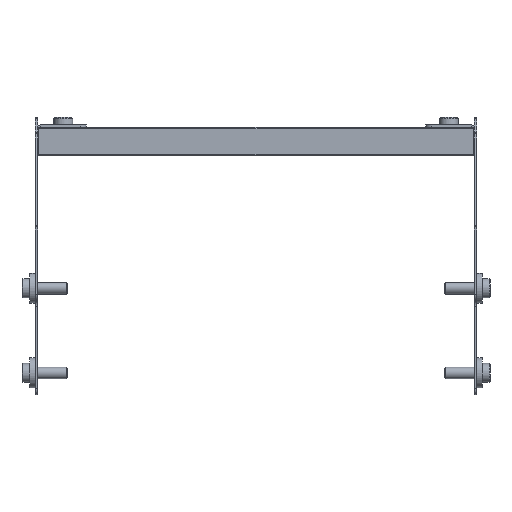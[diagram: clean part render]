
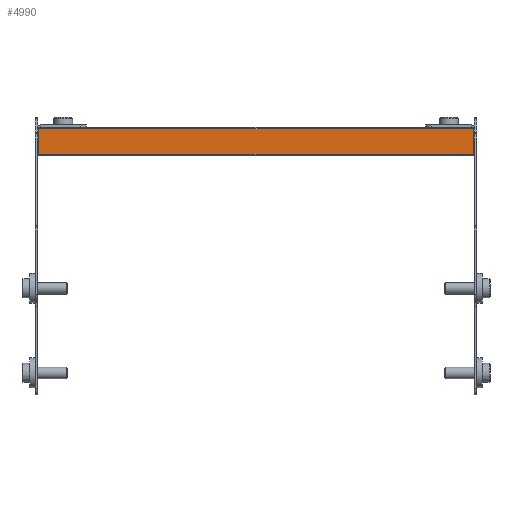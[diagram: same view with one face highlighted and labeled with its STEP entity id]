
A CAD part, front view. The second image highlights one B-rep face of the part: STEP entity #4990.
In plain terms, the highlighted planar face has unit normal (0, -1, 0) as drawn and (1, 0, 0) by its records, which use the part's own axes.
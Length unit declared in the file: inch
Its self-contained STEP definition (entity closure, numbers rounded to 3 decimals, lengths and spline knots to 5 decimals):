
#3389=DIRECTION('',(0.,-1.,0.));
#3390=VECTOR('',#3389,0.53055);
#3391=CARTESIAN_POINT('',(0.78127,0.26528,-4.5));
#3392=LINE('',#3391,#3390);
#4007=DIRECTION('',(0.,0.,-1.));
#4008=VECTOR('',#4007,9.);
#4009=CARTESIAN_POINT('',(0.78127,0.26528,4.5));
#4010=LINE('',#4009,#4008);
#4011=DIRECTION('',(0.,-1.,0.));
#4012=VECTOR('',#4011,0.53055);
#4013=CARTESIAN_POINT('',(0.78127,0.26528,4.5));
#4014=LINE('',#4013,#4012);
#4015=DIRECTION('',(0.,0.,1.));
#4016=VECTOR('',#4015,9.);
#4017=CARTESIAN_POINT('',(0.78127,-0.26528,-4.5));
#4018=LINE('',#4017,#4016);
#4329=CARTESIAN_POINT('',(0.78127,0.26528,4.5));
#4330=CARTESIAN_POINT('',(0.78127,-0.26528,4.5));
#4331=VERTEX_POINT('',#4329);
#4332=VERTEX_POINT('',#4330);
#4531=CARTESIAN_POINT('',(0.78127,-0.26528,-4.5));
#4532=VERTEX_POINT('',#4531);
#4577=CARTESIAN_POINT('',(0.78127,0.26528,-4.5));
#4578=VERTEX_POINT('',#4577);
#4978=CARTESIAN_POINT('',(0.78127,0.29528,4.5));
#4979=DIRECTION('',(-1.,0.,0.));
#4980=DIRECTION('',(0.,0.,1.));
#4981=AXIS2_PLACEMENT_3D('',#4978,#4979,#4980);
#4982=PLANE('',#4981);
#4983=ORIENTED_EDGE('',*,*,#4791,.F.);
#4984=ORIENTED_EDGE('',*,*,#4973,.T.);
#4985=ORIENTED_EDGE('',*,*,#4642,.T.);
#4987=ORIENTED_EDGE('',*,*,#4986,.T.);
#4988=EDGE_LOOP('',(#4983,#4984,#4985,#4987));
#4989=FACE_OUTER_BOUND('',#4988,.F.);
#4642=EDGE_CURVE('',#4578,#4532,#3392,.T.);
#4791=EDGE_CURVE('',#4331,#4332,#4014,.T.);
#4973=EDGE_CURVE('',#4331,#4578,#4010,.T.);
#4986=EDGE_CURVE('',#4532,#4332,#4018,.T.);
#4990=ADVANCED_FACE('',(#4989),#4982,.F.);
